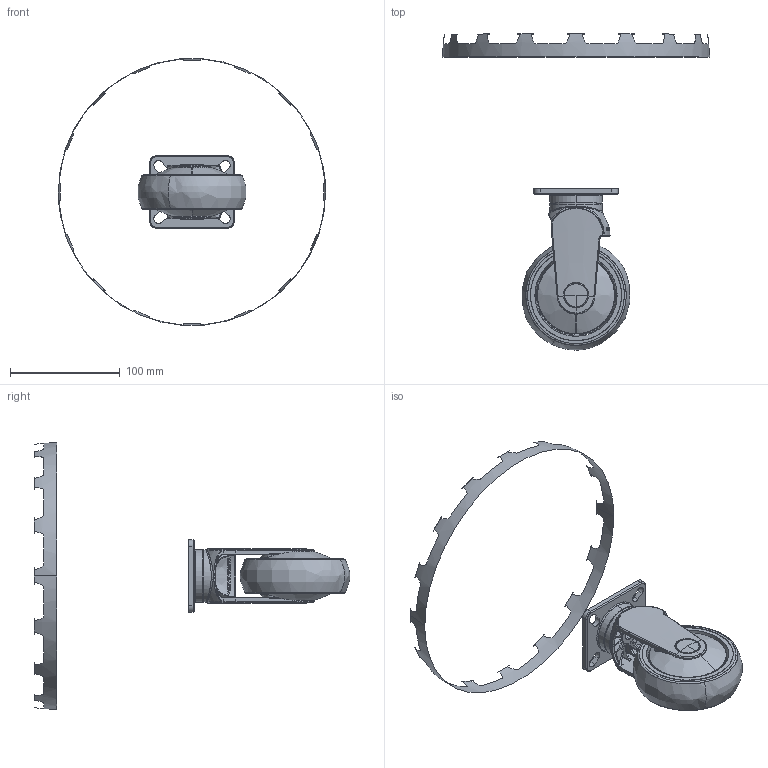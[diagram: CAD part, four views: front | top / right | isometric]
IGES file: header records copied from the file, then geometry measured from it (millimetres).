
Start section: SolidWorks IGES file using analytic representation for surfaces
Global section: file name: S:\Tyokansio\VL\301043_IGES.IGS; native system: SolidWorks 2011; preprocessor: SolidWorks 2011; author: VilleLa; date: 110622.133903; units: millimetre
Bounding box: 243.56 x 287.85 x 242.96 mm (x, y, z)
Surface area: 92052.2 mm2 (no closed solid volume)
Topology: 0 solids, 0 shells, 573 faces, 6743 edges, 6730 vertices
Faces by surface type: bspline 335, revolution 238
